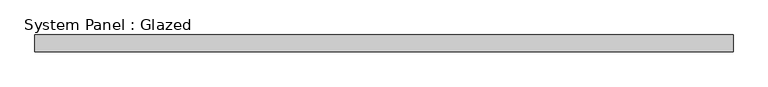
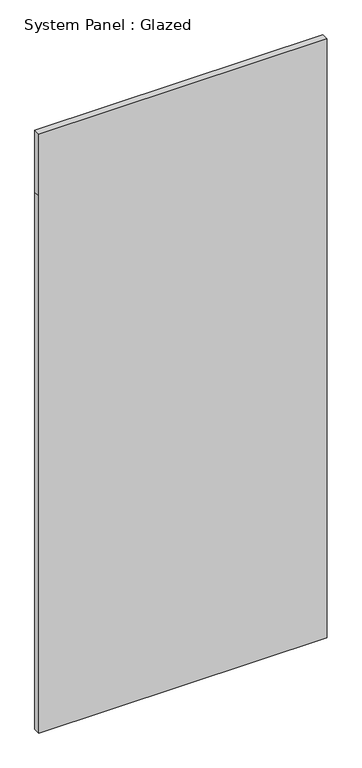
"""IFC4 building model written with IfcOpenShell, lengths in millimetres: plate geometry, System Panel : Glazed."""

from ifc_helpers import new_model, si_unit, frame, origin, place, context, project, spatial, polyline, outline, extrude, source, transform, mapped, element, save


def system_panel_glazed_011a4f1d(model_context):
    return source(origin(), model_context, "Body", "SweptSolid", [
        extrude(outline(polyline([(0.0, -533.4), (0.0, 533.4), (2101.85, 533.4), (2343.15, 533.4), (2343.15, -533.4), (2101.85, -533.4), (0.0, -533.4)])), frame((0.0, 19.05, 0.0), z_axis=(0.0, 1.0, 0.0), x_axis=(0.0, 0.0, 1.0)), (0.0, 0.0, 1.0), 25.4),
    ])


if __name__ == "__main__":
    model = new_model("IFC4")
    model_context = context("Model", 3, world=origin())
    ifc_project = project(units=[si_unit("LENGTHUNIT", "METRE", prefix="MILLI")], contexts=[model_context])
    site = spatial("IfcSite", under=ifc_project)
    building = spatial("IfcBuilding", under=site)
    placement = place(None, origin())
    system_panel_glazed_shape = system_panel_glazed_011a4f1d(model_context)
    element("IfcPlate", 1, ObjectType="System Panel : Glazed", at=placement, inside=building, context=model_context, shape_type="MappedRepresentation", body=[
        mapped(system_panel_glazed_shape, transform((0.0, 0.0, 0.0), x_axis=(1.0, 0.0, 0.0), y_axis=(0.0, 1.0, 0.0), z_axis=(0.0, 0.0, 1.0))),
    ])
    save(model, "model.ifc")
